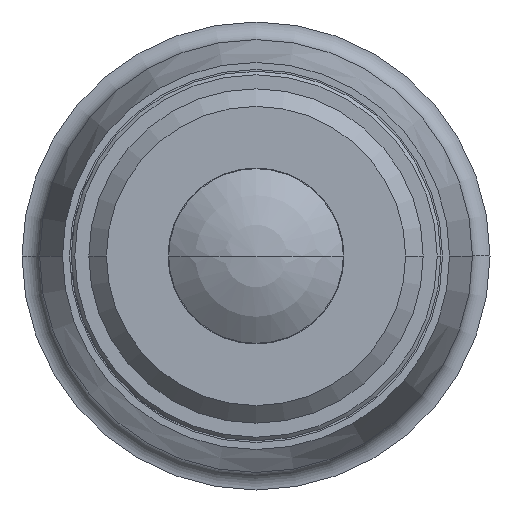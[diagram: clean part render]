
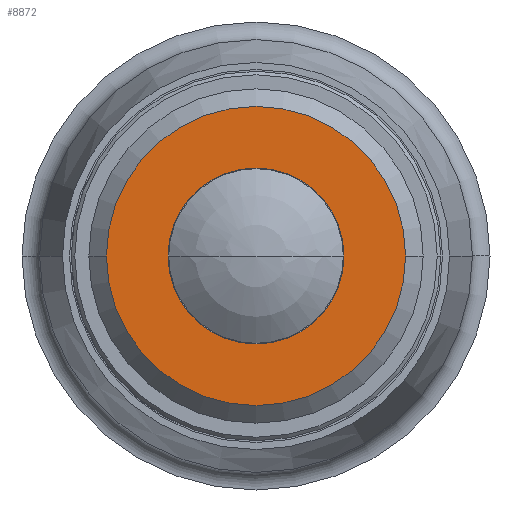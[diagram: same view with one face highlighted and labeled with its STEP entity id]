
A CAD part, left-side view. The second image highlights one B-rep face of the part: STEP entity #8872.
In plain terms, the highlighted planar face has unit normal (-1, 0, 0).
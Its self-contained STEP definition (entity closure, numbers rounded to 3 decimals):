
#3331=CARTESIAN_POINT('',(-9.5,0.,0.));
#3332=DIRECTION('',(-1.,0.,0.));
#3333=DIRECTION('',(0.,-1.,0.));
#3334=AXIS2_PLACEMENT_3D('',#3331,#3332,#3333);
#3336=CARTESIAN_POINT('',(-9.5,0.,0.));
#3337=DIRECTION('',(-1.,0.,0.));
#3338=DIRECTION('',(0.,1.,0.));
#3339=AXIS2_PLACEMENT_3D('',#3336,#3337,#3338);
#3341=CARTESIAN_POINT('',(-9.5,0.,0.));
#3342=DIRECTION('',(1.,0.,0.));
#3343=DIRECTION('',(0.,0.,-1.));
#3344=AXIS2_PLACEMENT_3D('',#3341,#3342,#3343);
#3346=CARTESIAN_POINT('',(-9.5,0.,0.));
#3347=DIRECTION('',(1.,0.,0.));
#3348=DIRECTION('',(0.,0.,1.));
#3349=AXIS2_PLACEMENT_3D('',#3346,#3347,#3348);
#3504=CARTESIAN_POINT('',(-9.5,-4.25,0.));
#3505=CARTESIAN_POINT('',(-9.5,4.25,0.));
#3506=VERTEX_POINT('',#3504);
#3507=VERTEX_POINT('',#3505);
#3971=CARTESIAN_POINT('',(-9.5,0.,-2.5));
#3972=CARTESIAN_POINT('',(-9.5,0.,2.5));
#3973=VERTEX_POINT('',#3971);
#3974=VERTEX_POINT('',#3972);
#8856=CARTESIAN_POINT('',(-9.5,0.,0.));
#8857=DIRECTION('',(1.,0.,0.));
#8858=DIRECTION('',(0.,-1.,0.));
#8859=AXIS2_PLACEMENT_3D('',#8856,#8857,#8858);
#8860=PLANE('',#8859);
#8862=ORIENTED_EDGE('',*,*,#8861,.F.);
#8863=ORIENTED_EDGE('',*,*,#8846,.F.);
#8864=EDGE_LOOP('',(#8862,#8863));
#8865=FACE_OUTER_BOUND('',#8864,.F.);
#8867=ORIENTED_EDGE('',*,*,#8866,.F.);
#8869=ORIENTED_EDGE('',*,*,#8868,.F.);
#8870=EDGE_LOOP('',(#8867,#8869));
#8871=FACE_BOUND('',#8870,.F.);
#8872=ADVANCED_FACE('',(#8865,#8871),#8860,.F.);
#3335=CIRCLE('',#3334,4.25);
#3340=CIRCLE('',#3339,4.25);
#3345=CIRCLE('',#3344,2.5);
#3350=CIRCLE('',#3349,2.5);
#8846=EDGE_CURVE('',#3507,#3506,#3340,.T.);
#8861=EDGE_CURVE('',#3506,#3507,#3335,.T.);
#8866=EDGE_CURVE('',#3973,#3974,#3345,.T.);
#8868=EDGE_CURVE('',#3974,#3973,#3350,.T.);
